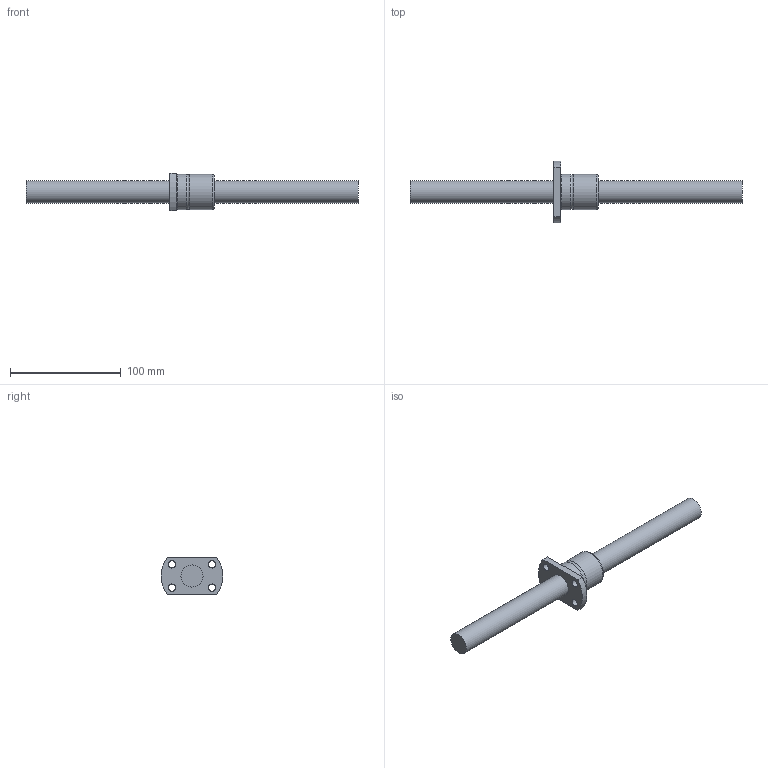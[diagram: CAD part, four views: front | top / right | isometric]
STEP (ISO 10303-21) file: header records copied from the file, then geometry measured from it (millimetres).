
FILE_DESCRIPTION((''),'2;1');
FILE_NAME('D:\製品 (図面)\カタログ用3D\ネジ関連\STEP形式\TMK-OH\TMK20-OH.stp','2010-06-02T15:28:19',('Tsuchiya'),(''),'Autodesk Inventor 10','Autodesk Inventor 10','');
FILE_SCHEMA(('AUTOMOTIVE_DESIGN { 1 0 10303 214 1 1 1 1 }'));
Length unit declared in the file: millimetre
Products named in the file (3): TMK20-OH; TMK20-OH1; TMK20-OH2
Assembly tree (2 placements, depth 2):
  TMK20-OH
    TMK20-OH1
    TMK20-OH2
Bounding box: 300 x 56 x 34 mm (x, y, z)
Volume: 118720.3 mm3; surface area: 29492.9 mm2
Topology: 2 solids, 2 shells, 21 faces, 49 edges, 33 vertices
Faces by surface type: cylinder 7, plane 7, bspline 6, torus 1
Full cylindrical faces by diameter (mm): 2 x1, 20 x2, 32 x2
Entity records: 869 total; most frequent: CARTESIAN_POINT 375, DIRECTION 92, ORIENTED_EDGE 64, EDGE_LOOP 46, AXIS2_PLACEMENT_3D 42, EDGE_CURVE 32, VERTEX_POINT 28, FACE_BOUND 25
